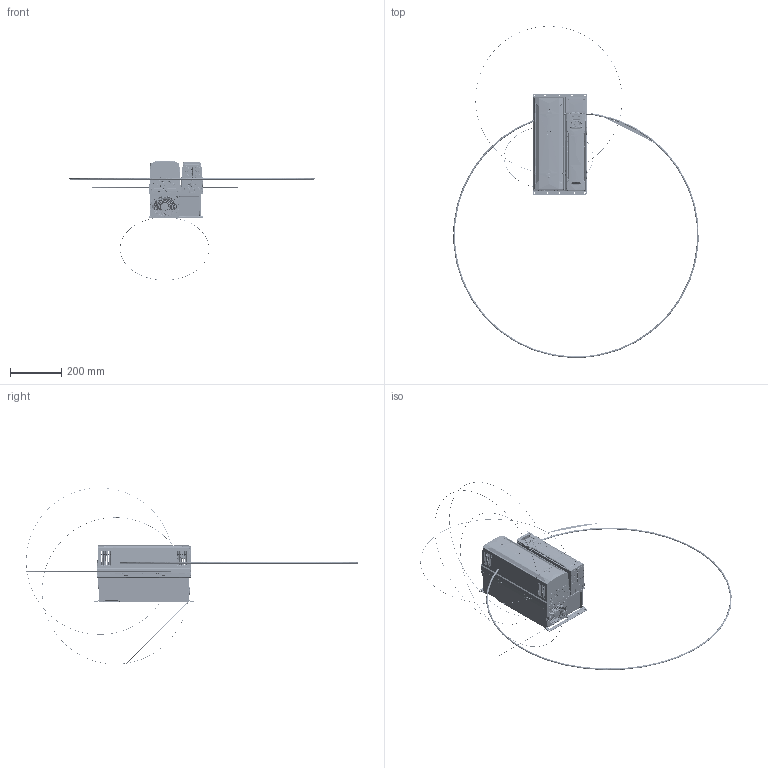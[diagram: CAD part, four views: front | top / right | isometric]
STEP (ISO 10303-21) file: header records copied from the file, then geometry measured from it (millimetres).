
FILE_DESCRIPTION((''),'2;1');
FILE_NAME('OUTER_STEP_SW0002','2014-02-20T',('jackne01'),(''),'PRO/ENGINEER BY PARAMETRIC TECHNOLOGY CORPORATION, 2011490','PRO/ENGINEER BY PARAMETRIC TECHNOLOGY CORPORATION, 2011490','');
FILE_SCHEMA(('CONFIG_CONTROL_DESIGN'));
Products named in the file (1): OUTER_STEP_SW0002
Bounding box: 953.59 x 1289.86 x 685.86 mm (x, y, z)
Surface area: 1833406.9 mm2 (no closed solid volume)
Topology: 0 solids, 0 shells, 10597 faces, 78143 edges, 77394 vertices
Faces by surface type: bspline 9701, torus 718, sphere 178
Entity records: 1382252 total; most frequent: CARTESIAN_POINT 668444, DIRECTION 112007, TRIMMED_CURVE 101520, VECTOR 92825, LINE 92825, DEFINITIONAL_REPRESENTATION 76635, PCURVE 76635, COMPOSITE_CURVE_SEGMENT 76635
